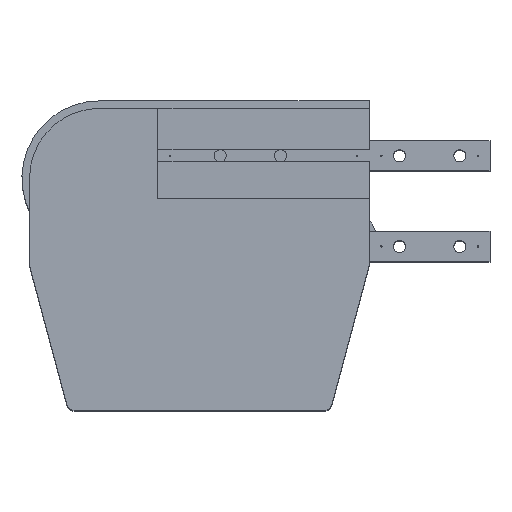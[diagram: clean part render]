
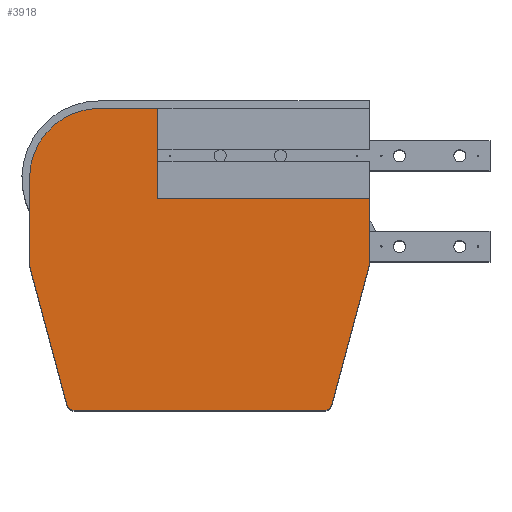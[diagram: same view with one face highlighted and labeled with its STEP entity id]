
A CAD part, top view. The second image highlights one B-rep face of the part: STEP entity #3918.
In plain terms, the highlighted planar face has unit normal (0, 0, 1).
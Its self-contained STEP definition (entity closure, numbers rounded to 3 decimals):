
#3 = EDGE_CURVE ( 'NONE', #5199, #468, #4583, .T. ) ;
#23 = VECTOR ( 'NONE', #1961, 1000. ) ;
#253 = ORIENTED_EDGE ( 'NONE', *, *, #338, .T. ) ;
#338 = EDGE_CURVE ( 'NONE', #2865, #5199, #2904, .T. ) ;
#418 = VERTEX_POINT ( 'NONE', #2826 ) ;
#468 = VERTEX_POINT ( 'NONE', #2987 ) ;
#476 = CARTESIAN_POINT ( 'NONE',  ( 29.73, -201.294, 158. ) ) ;
#500 = CARTESIAN_POINT ( 'NONE',  ( 205.27, -201.294, 158. ) ) ;
#645 = EDGE_CURVE ( 'NONE', #7410, #2865, #6352, .T. ) ;
#904 = CARTESIAN_POINT ( 'NONE',  ( 34.56, -200., 158. ) ) ;
#963 = LINE ( 'NONE', #2337, #6814 ) ;
#1081 = CARTESIAN_POINT ( 'NONE',  ( 10., -108.342, 158. ) ) ;
#1104 = DIRECTION ( 'NONE',  ( 0., -1., 0. ) ) ;
#1192 = VERTEX_POINT ( 'NONE', #1991 ) ;
#1646 = LINE ( 'NONE', #5081, #23 ) ;
#1664 = EDGE_LOOP ( 'NONE', ( #5761, #5881, #4454, #6932, #4015, #4297, #3191, #4788, #3261, #5911, #253, #7534 ) ) ;
#1961 = DIRECTION ( 'NONE',  ( 0.259, -0.966, 0. ) ) ;
#1991 = CARTESIAN_POINT ( 'NONE',  ( 5.17, -109.636, 158. ) ) ;
#1999 = CARTESIAN_POINT ( 'NONE',  ( 34.56, -205., 158. ) ) ;
#2029 = CIRCLE ( 'NONE', #4002, 5. ) ;
#2327 = LINE ( 'NONE', #1999, #6994 ) ;
#2337 = CARTESIAN_POINT ( 'NONE',  ( 90., -46.4, 158. ) ) ;
#2346 = AXIS2_PLACEMENT_3D ( 'NONE', #2384, #4136, #5465 ) ;
#2384 = CARTESIAN_POINT ( 'NONE',  ( 200.44, -200., 158. ) ) ;
#2460 = VERTEX_POINT ( 'NONE', #7813 ) ;
#2539 = VECTOR ( 'NONE', #4697, 1000. ) ;
#2676 = DIRECTION ( 'NONE',  ( -1., 0., 0. ) ) ;
#2817 = VECTOR ( 'NONE', #7123, 1000. ) ;
#2826 = CARTESIAN_POINT ( 'NONE',  ( 34.56, -205., 158. ) ) ;
#2854 = VERTEX_POINT ( 'NONE', #4146 ) ;
#2865 = VERTEX_POINT ( 'NONE', #7876 ) ;
#2904 = LINE ( 'NONE', #5242, #2817 ) ;
#2968 = EDGE_CURVE ( 'NONE', #468, #3519, #963, .T. ) ;
#2972 = CIRCLE ( 'NONE', #7331, 5. ) ;
#2987 = CARTESIAN_POINT ( 'NONE',  ( 90., -65., 158. ) ) ;
#3041 = EDGE_CURVE ( 'NONE', #1192, #3665, #1646, .T. ) ;
#3173 = DIRECTION ( 'NONE',  ( 1., 0., 0. ) ) ;
#3177 = CARTESIAN_POINT ( 'NONE',  ( 230., -109., 158. ) ) ;
#3191 = ORIENTED_EDGE ( 'NONE', *, *, #4319, .T. ) ;
#3261 = ORIENTED_EDGE ( 'NONE', *, *, #3488, .T. ) ;
#3276 = LINE ( 'NONE', #4265, #8063 ) ;
#3325 = DIRECTION ( 'NONE',  ( 0., 0., 1. ) ) ;
#3488 = EDGE_CURVE ( 'NONE', #6746, #7410, #2029, .T. ) ;
#3519 = VERTEX_POINT ( 'NONE', #6266 ) ;
#3591 = VECTOR ( 'NONE', #7524, 1000. ) ;
#3633 = DIRECTION ( 'NONE',  ( -1., 0., 0. ) ) ;
#3665 = VERTEX_POINT ( 'NONE', #476 ) ;
#3705 = DIRECTION ( 'NONE',  ( -1., 0., 0. ) ) ;
#3706 = AXIS2_PLACEMENT_3D ( 'NONE', #7027, #3325, #7704 ) ;
#3877 = AXIS2_PLACEMENT_3D ( 'NONE', #1081, #4212, #5443 ) ;
#3918 = ADVANCED_FACE ( 'NONE', ( #5329 ), #7264, .F. ) ;
#4002 = AXIS2_PLACEMENT_3D ( 'NONE', #7345, #5464, #3633 ) ;
#4015 = ORIENTED_EDGE ( 'NONE', *, *, #7316, .T. ) ;
#4136 = DIRECTION ( 'NONE',  ( 0., 0., -1. ) ) ;
#4146 = CARTESIAN_POINT ( 'NONE',  ( 5., -51.3, 158. ) ) ;
#4183 = CIRCLE ( 'NONE', #3877, 5. ) ;
#4212 = DIRECTION ( 'NONE',  ( 0., 0., 1. ) ) ;
#4265 = CARTESIAN_POINT ( 'NONE',  ( 5., -51.3, 158. ) ) ;
#4297 = ORIENTED_EDGE ( 'NONE', *, *, #3041, .T. ) ;
#4319 = EDGE_CURVE ( 'NONE', #3665, #418, #2972, .T. ) ;
#4339 = VERTEX_POINT ( 'NONE', #5492 ) ;
#4399 = DIRECTION ( 'NONE',  ( 0., 1., 0. ) ) ;
#4406 = VECTOR ( 'NONE', #3705, 1000. ) ;
#4454 = ORIENTED_EDGE ( 'NONE', *, *, #4650, .T. ) ;
#4583 = LINE ( 'NONE', #4888, #4406 ) ;
#4650 = EDGE_CURVE ( 'NONE', #4339, #2854, #6589, .T. ) ;
#4697 = DIRECTION ( 'NONE',  ( -1., 0., 0. ) ) ;
#4788 = ORIENTED_EDGE ( 'NONE', *, *, #5336, .T. ) ;
#4888 = CARTESIAN_POINT ( 'NONE',  ( 230., -65., 158. ) ) ;
#5081 = CARTESIAN_POINT ( 'NONE',  ( 5.17, -109.636, 158. ) ) ;
#5199 = VERTEX_POINT ( 'NONE', #6262 ) ;
#5242 = CARTESIAN_POINT ( 'NONE',  ( 230., -106.4, 158. ) ) ;
#5280 = DIRECTION ( 'NONE',  ( 0., 0., 1. ) ) ;
#5329 = FACE_OUTER_BOUND ( 'NONE', #1664, .T. ) ;
#5336 = EDGE_CURVE ( 'NONE', #418, #6746, #2327, .T. ) ;
#5443 = DIRECTION ( 'NONE',  ( -1., 0., 0. ) ) ;
#5464 = DIRECTION ( 'NONE',  ( 0., 0., 1. ) ) ;
#5465 = DIRECTION ( 'NONE',  ( -1., 0., 0. ) ) ;
#5492 = CARTESIAN_POINT ( 'NONE',  ( 51.3, -5., 158. ) ) ;
#5761 = ORIENTED_EDGE ( 'NONE', *, *, #2968, .T. ) ;
#5846 = LINE ( 'NONE', #7761, #2539 ) ;
#5881 = ORIENTED_EDGE ( 'NONE', *, *, #7934, .T. ) ;
#5911 = ORIENTED_EDGE ( 'NONE', *, *, #645, .T. ) ;
#6262 = CARTESIAN_POINT ( 'NONE',  ( 230., -65., 158. ) ) ;
#6266 = CARTESIAN_POINT ( 'NONE',  ( 90., -5., 158. ) ) ;
#6352 = LINE ( 'NONE', #3177, #3591 ) ;
#6518 = EDGE_CURVE ( 'NONE', #2854, #2460, #3276, .T. ) ;
#6589 = CIRCLE ( 'NONE', #3706, 46.3 ) ;
#6746 = VERTEX_POINT ( 'NONE', #6977 ) ;
#6814 = VECTOR ( 'NONE', #4399, 1000. ) ;
#6932 = ORIENTED_EDGE ( 'NONE', *, *, #6518, .T. ) ;
#6977 = CARTESIAN_POINT ( 'NONE',  ( 200.44, -205., 158. ) ) ;
#6994 = VECTOR ( 'NONE', #3173, 1000. ) ;
#7027 = CARTESIAN_POINT ( 'NONE',  ( 51.3, -51.3, 158. ) ) ;
#7123 = DIRECTION ( 'NONE',  ( 0., 1., 0. ) ) ;
#7264 = PLANE ( 'NONE',  #2346 ) ;
#7316 = EDGE_CURVE ( 'NONE', #2460, #1192, #4183, .T. ) ;
#7331 = AXIS2_PLACEMENT_3D ( 'NONE', #904, #5280, #2676 ) ;
#7345 = CARTESIAN_POINT ( 'NONE',  ( 200.44, -200., 158. ) ) ;
#7410 = VERTEX_POINT ( 'NONE', #500 ) ;
#7524 = DIRECTION ( 'NONE',  ( 0.259, 0.966, 0. ) ) ;
#7534 = ORIENTED_EDGE ( 'NONE', *, *, #3, .T. ) ;
#7704 = DIRECTION ( 'NONE',  ( -1., 0., 0. ) ) ;
#7761 = CARTESIAN_POINT ( 'NONE',  ( 51.3, -5., 158. ) ) ;
#7813 = CARTESIAN_POINT ( 'NONE',  ( 5., -108.342, 158. ) ) ;
#7876 = CARTESIAN_POINT ( 'NONE',  ( 230., -109., 158. ) ) ;
#7934 = EDGE_CURVE ( 'NONE', #3519, #4339, #5846, .T. ) ;
#8063 = VECTOR ( 'NONE', #1104, 1000. ) ;
